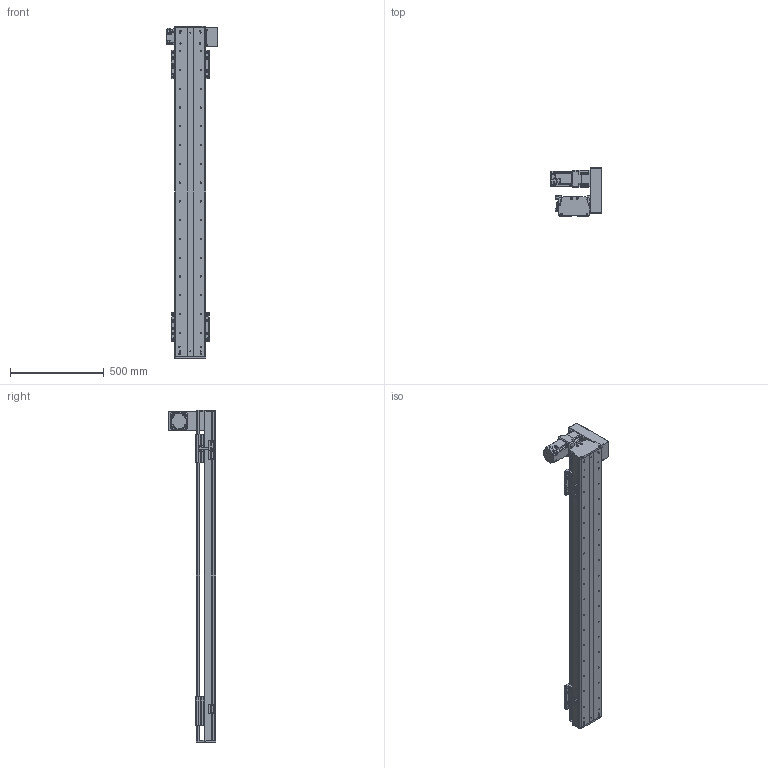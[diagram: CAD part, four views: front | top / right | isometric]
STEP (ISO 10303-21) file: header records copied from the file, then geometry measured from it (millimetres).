
FILE_DESCRIPTION(/* description */ (''),/* implementation_level */ '2;1');
FILE_NAME(/* name */ 'C:\Users\PC\Desktop\3D도면\STEP\새 폴더\DSB165-UR7G-W1400-L.stp',/* time_stamp */ '2018-06-25T15:19:34+09:00',/* author */ ('PC'),/* organization */ (''),/* preprocessor_version */ 'ST-DEVELOPER v16.5',/* originating_system */ 'Autodesk Inventor 2017',/* authorisation */ '');
FILE_SCHEMA (('AUTOMOTIVE_DESIGN { 1 0 10303 214 3 1 1 }'));
Length unit declared in the file: millimetre
Products named in the file (12): DSB165-UL7G-W1400-R_MIR; DSB165-BASE-L_MIR; hg-kr73__MIR; ab0901-p0401300102_MIR; 11-DSB165 BELT COVER_MIR; 12-DSB165-REAR COVER_MIR; 14-DSB165-FRONT COVER_MIR; DSB165-UP COVER_MIR; DSR165-SENSOR DOG_MIR; pm-y65_step_MIR; SENSOR BRACKET(EE-SX674A)_MIR; DSB165-TABLE(MSB20S)_MIR
Assembly tree (16 placements, depth 2):
  DSB165-UL7G-W1400-R_MIR
    DSB165-BASE-L_MIR
    hg-kr73__MIR
    ab0901-p0401300102_MIR
    11-DSB165 BELT COVER_MIR
    12-DSB165-REAR COVER_MIR
    14-DSB165-FRONT COVER_MIR
    DSB165-UP COVER_MIR
    DSR165-SENSOR DOG_MIR
    pm-y65_step_MIR  x3
    SENSOR BRACKET(EE-SX674A)_MIR  x3
    DSB165-TABLE(MSB20S)_MIR  x2
Bounding box: 270 x 254 x 1770 mm (x, y, z)
Volume: 10695444.3 mm3; surface area: 2487300.9 mm2
Topology: 17 solids, 17 shells, 1685 faces, 4524 edges, 2978 vertices
Faces by surface type: plane 921, cylinder 628, cone 124, sphere 8, torus 4
Full cylindrical faces by diameter (mm): 2.459 x20, 3.5 x6, 4.134 x42, 4.5 x18, 5 x27, 5.5 x36, 5.9 x4, 6 x4, 6.6 x14, 6.647 x52, 6.8 x1, 7 x4, 7.6 x4, 8.4 x1, 8.5 x24, 8.7 x1, 9.5 x32, 11 x6, 14 x16, 19 x1, 22 x1, 24 x1, 25 x1, 28 x1, 67 x1, 70 x2, 80 x1
Entity records: 36508 total; most frequent: DIRECTION 6330, CARTESIAN_POINT 6123, ORIENTED_EDGE 5570, EDGE_CURVE 2785, AXIS2_PLACEMENT_3D 2335, VERTEX_POINT 1990, EDGE_LOOP 1767, LINE 1660
